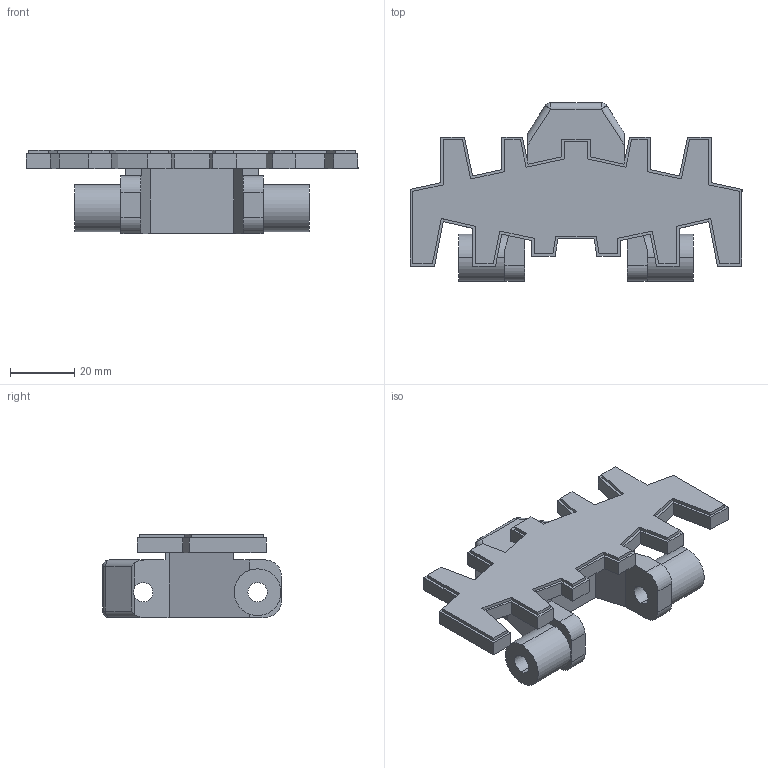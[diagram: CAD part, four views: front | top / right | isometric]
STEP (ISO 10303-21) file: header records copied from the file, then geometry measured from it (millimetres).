
FILE_DESCRIPTION (( 'STEP AP214' ), '1' );
FILE_NAME ('FCFT 5A.step', '2017-04-04T13:29:09', ( '' ), ( '' ), 'SwSTEP 2.0', 'SolidWorks 2015', '' );
FILE_SCHEMA (( 'AUTOMOTIVE_DESIGN' ));
Length unit declared in the file: millimetre
Products named in the file (1): FCFT 5A
Bounding box: 103 x 55.39 x 25.75 mm (x, y, z)
Volume: 40174 mm3; surface area: 16017 mm2
Topology: 1 solids, 1 shells, 144 faces, 418 edges, 272 vertices
Faces by surface type: plane 116, cylinder 24, sphere 4
Entity records: 5205 total; most frequent: CARTESIAN_POINT 883, ORIENTED_EDGE 828, DIRECTION 736, EDGE_CURVE 414, VECTOR 358, LINE 358, VERTEX_POINT 272, AXIS2_PLACEMENT_3D 189
